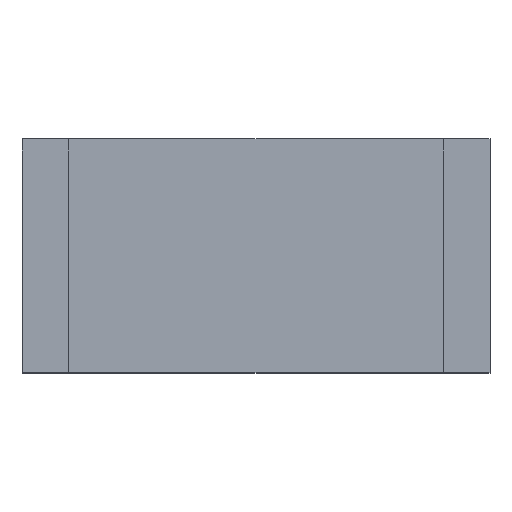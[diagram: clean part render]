
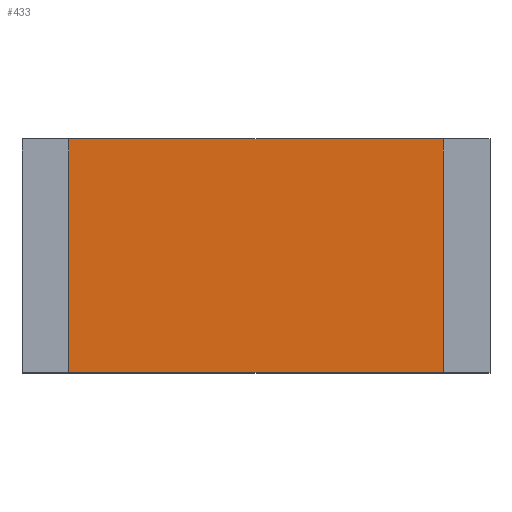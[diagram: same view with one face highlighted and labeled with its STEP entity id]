
A CAD part, top view. The second image highlights one B-rep face of the part: STEP entity #433.
In plain terms, the highlighted planar face has unit normal (0, 0, 1).
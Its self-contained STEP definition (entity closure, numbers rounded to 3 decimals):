
#433=ADVANCED_FACE('',(#872),#874,.F.);
#872=FACE_BOUND('',#873,.T.);
#873=EDGE_LOOP('',(#1180,#1181,#1182,#1183));
#874=PLANE('',#875);
#875=AXIS2_PLACEMENT_3D('',#876,#877,#878);
#876=CARTESIAN_POINT('',(0.,0.,0.6));
#877=DIRECTION('',(0.,0.,-1.));
#878=DIRECTION('',(1.,0.,0.));
#1180=ORIENTED_EDGE('',*,*,#1368,.F.);
#1181=ORIENTED_EDGE('',*,*,#1365,.F.);
#1182=ORIENTED_EDGE('',*,*,#1362,.F.);
#1183=ORIENTED_EDGE('',*,*,#1358,.F.);
#1358=EDGE_CURVE('',#1541,#1542,#1543,.T.);
#1362=EDGE_CURVE('',#1542,#1549,#1550,.T.);
#1365=EDGE_CURVE('',#1549,#1554,#1555,.T.);
#1368=EDGE_CURVE('',#1554,#1541,#1559,.T.);
#1541=VERTEX_POINT('',#1910);
#1542=VERTEX_POINT('',#1911);
#1543=LINE('',#1912,#1913);
#1549=VERTEX_POINT('',#1926);
#1550=LINE('',#1927,#1928);
#1554=VERTEX_POINT('',#1937);
#1555=LINE('',#1938,#1939);
#1559=LINE('',#1948,#1949);
#1910=CARTESIAN_POINT('',(2.,-1.25,0.6));
#1911=CARTESIAN_POINT('',(-2.,-1.25,0.6));
#1912=CARTESIAN_POINT('',(2.,-1.25,0.6));
#1913=VECTOR('',#1914,1.);
#1914=DIRECTION('',(-1.,0.,0.));
#1926=CARTESIAN_POINT('',(-2.,1.25,0.6));
#1927=CARTESIAN_POINT('',(-2.,-1.25,0.6));
#1928=VECTOR('',#1929,1.);
#1929=DIRECTION('',(0.,1.,0.));
#1937=CARTESIAN_POINT('',(2.,1.25,0.6));
#1938=CARTESIAN_POINT('',(-2.,1.25,0.6));
#1939=VECTOR('',#1940,1.);
#1940=DIRECTION('',(1.,0.,0.));
#1948=CARTESIAN_POINT('',(2.,1.25,0.6));
#1949=VECTOR('',#1950,1.);
#1950=DIRECTION('',(0.,-1.,0.));
